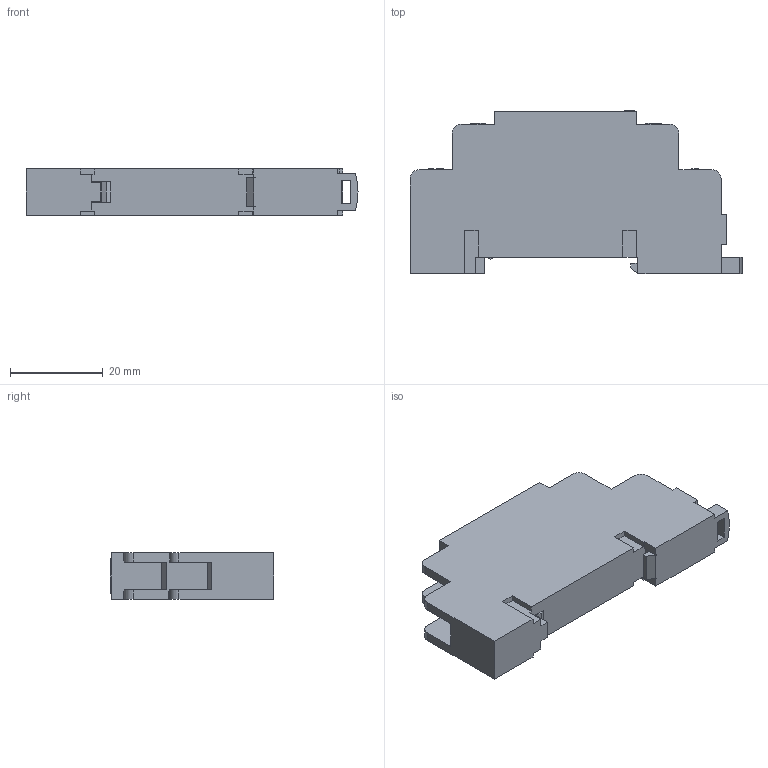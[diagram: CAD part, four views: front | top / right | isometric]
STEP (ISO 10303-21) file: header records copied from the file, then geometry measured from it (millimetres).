
FILE_DESCRIPTION(/* description */ (''),/* implementation_level */ '2;1');
FILE_NAME(/* name */ '',/* time_stamp */ '2015-04-02T12:16:37+09:00',/* author */ (''),/* organization */ (''),/* preprocessor_version */ 'ST-DEVELOPER v11',/* originating_system */ 'SIEMENS UGS NX 6.0',/* authorisation */ '');
FILE_SCHEMA (('CONFIG_CONTROL_DESIGN'));
Length unit declared in the file: millimetre
Products named in the file (1): ksle6E565k19
Bounding box: 71.5 x 35.2 x 10 mm (x, y, z)
Volume: 17513.8 mm3; surface area: 7202.3 mm2
Topology: 1 solids, 1 shells, 352 faces, 960 edges, 639 vertices
Faces by surface type: plane 248, bspline 86, cylinder 18
Full cylindrical faces by diameter (mm): 0.679 x1, 1.521 x1, 1.899 x1, 2.265 x1, 3.1 x1
Entity records: 11356 total; most frequent: CARTESIAN_POINT 2931, ORIENTED_EDGE 1908, DIRECTION 1352, EDGE_CURVE 954, LINE 746, VECTOR 746, VERTEX_POINT 638, EDGE_LOOP 388
